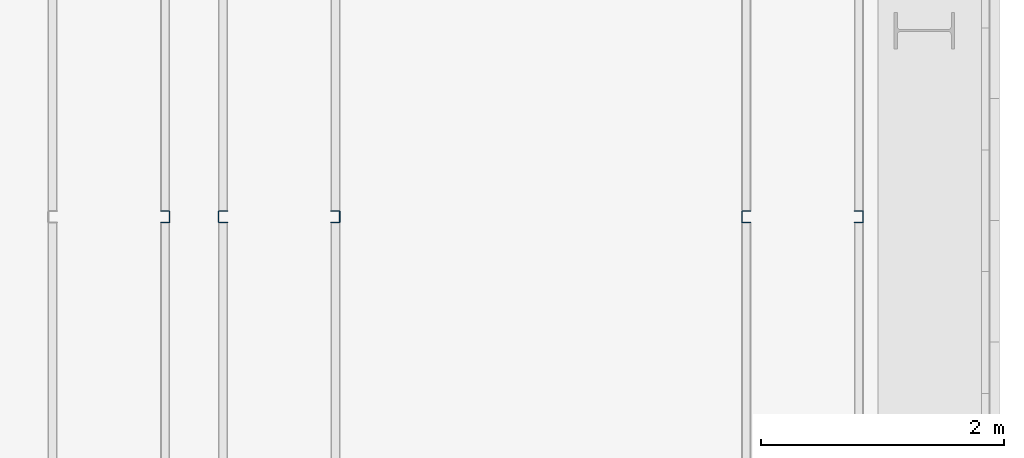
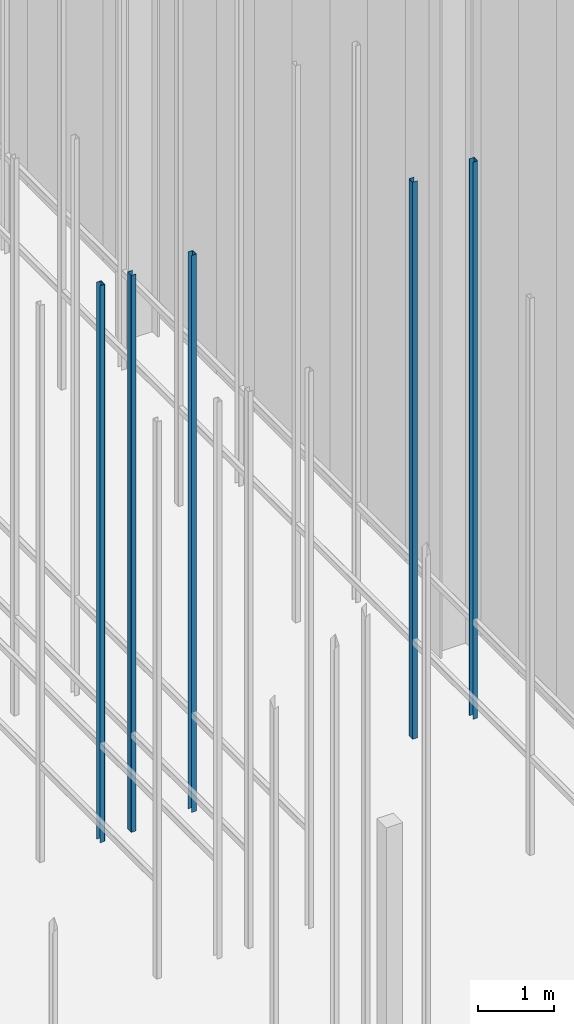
# One storey, part 15 of 302: 5 columns.
"""IFC2X3 building model written with IfcOpenShell, lengths in metres."""

from ifc_helpers import new_model, entity, si_unit, converted_unit, derived_unit, direction, frame, frame_2d, origin, place, context, subcontext, project, spatial, polyline, circle_curve, parameter, trimmed, segment, composite_curve, outline, extrude, source, transform, mapped, material, type_object, type_shapes, element, save


model = new_model("IFC2X3")

# Units and contexts
model_context = context("Model", 3, precision=1e-05, world=origin(), true_north=direction((6.12303176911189e-17, 1.0)))
body_context = subcontext(model_context, "Body", "Model", "MODEL_VIEW")
ifc_project = project(units=[si_unit("LENGTHUNIT", "METRE"), si_unit("AREAUNIT", "SQUARE_METRE"), si_unit("VOLUMEUNIT", "CUBIC_METRE"), converted_unit("PLANEANGLEUNIT", "DEGREE", entity("IfcRatioMeasure", 0.0174532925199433), si_unit("PLANEANGLEUNIT", "RADIAN"), dimensions=[0, 0, 0, 0, 0, 0, 0]), si_unit("MASSUNIT", "GRAM", prefix="KILO"), derived_unit("MASSDENSITYUNIT", [(si_unit("MASSUNIT", "GRAM", prefix="KILO"), 1), (si_unit("LENGTHUNIT", "METRE"), -3)]), derived_unit("MOMENTOFINERTIAUNIT", [(si_unit("LENGTHUNIT", "METRE"), 4)]), si_unit("TIMEUNIT", "SECOND"), si_unit("FREQUENCYUNIT", "HERTZ"), si_unit("THERMODYNAMICTEMPERATUREUNIT", "DEGREE_CELSIUS"), derived_unit("THERMALTRANSMITTANCEUNIT", [(si_unit("MASSUNIT", "GRAM", prefix="KILO"), 1), (si_unit("THERMODYNAMICTEMPERATUREUNIT", "KELVIN"), -1), (si_unit("TIMEUNIT", "SECOND"), -3)]), derived_unit("VOLUMETRICFLOWRATEUNIT", [(si_unit("LENGTHUNIT", "METRE"), 3), (si_unit("TIMEUNIT", "SECOND"), -1)]), si_unit("ELECTRICCURRENTUNIT", "AMPERE"), si_unit("ELECTRICVOLTAGEUNIT", "VOLT"), si_unit("POWERUNIT", "WATT"), si_unit("FORCEUNIT", "NEWTON", prefix="KILO"), si_unit("ILLUMINANCEUNIT", "LUX"), si_unit("LUMINOUSFLUXUNIT", "LUMEN"), si_unit("LUMINOUSINTENSITYUNIT", "CANDELA"), derived_unit("USERDEFINED", [(si_unit("MASSUNIT", "GRAM", prefix="KILO"), -1), (si_unit("LENGTHUNIT", "METRE"), -2), (si_unit("TIMEUNIT", "SECOND"), 3), (si_unit("LUMINOUSFLUXUNIT", "LUMEN"), 1)]), derived_unit("LINEARVELOCITYUNIT", [(si_unit("LENGTHUNIT", "METRE"), 1), (si_unit("TIMEUNIT", "SECOND"), -1)]), si_unit("PRESSUREUNIT", "PASCAL"), derived_unit("USERDEFINED", [(si_unit("LENGTHUNIT", "METRE"), -2), (si_unit("MASSUNIT", "GRAM", prefix="KILO"), 1), (si_unit("TIMEUNIT", "SECOND"), -2)]), derived_unit("LINEARFORCEUNIT", [(si_unit("MASSUNIT", "GRAM", prefix="KILO"), 1), (si_unit("LENGTHUNIT", "METRE"), 1), (si_unit("TIMEUNIT", "SECOND"), -2), (si_unit("LENGTHUNIT", "METRE"), -1)]), derived_unit("PLANARFORCEUNIT", [(si_unit("MASSUNIT", "GRAM", prefix="KILO"), 1), (si_unit("LENGTHUNIT", "METRE"), 1), (si_unit("TIMEUNIT", "SECOND"), -2), (si_unit("LENGTHUNIT", "METRE"), -2)])], contexts=[model_context])

# Site, building, storey
site_placement = place(None, origin())
site = spatial("IfcSite", under=ifc_project, at=site_placement, Name="Default", CompositionType="ELEMENT")
building_placement = place(site_placement, origin())
building = spatial("IfcBuilding", under=site, at=building_placement, CompositionType="ELEMENT")
storey_placement = place(building_placement, frame((0.0, 0.0, -1.3)))
storey = spatial("IfcBuildingStorey", under=building, at=storey_placement, Name="00_EG", CompositionType="ELEMENT", Elevation=-1.3)

# Columns
ifc_material = material(Name="Metall - Baustahl S235")
column_type_1 = type_object("IfcColumnType", Name="Leichter Stahl Schlossschrauben Stütze:C 100", PredefinedType="COLUMN", material=ifc_material)
shared_shape_1 = source(origin(), body_context, "Body", "SweptSolid", [
    extrude(outline(composite_curve([segment(polyline([(-0.0469749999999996, -0.0499999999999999), (0.0214500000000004, -0.0499999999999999)]), True, "CONTINUOUS"), segment(trimmed(circle_curve(frame_2d((0.0214500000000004, -0.0434249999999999), x_axis=(0.0, -1.0)), 0.00657500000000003), [parameter(0.0)], [parameter(89.9999999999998)], True, "PARAMETER"), True, "CONTINUOUS"), segment(polyline([(0.0280250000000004, -0.0434249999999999), (0.0280250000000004, 0.0434250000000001)]), True, "CONTINUOUS"), segment(trimmed(circle_curve(frame_2d((0.0214500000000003, 0.0434250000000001), x_axis=(1.0, 0.0)), 0.0065750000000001), [parameter(0.0)], [parameter(89.9999999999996)], True, "PARAMETER"), True, "CONTINUOUS"), segment(polyline([(0.0214500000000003, 0.0500000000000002), (-0.0469750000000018, 0.0500000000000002)]), True, "CONTINUOUS"), segment(polyline([(-0.0469750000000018, 0.0500000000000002), (-0.0469750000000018, 0.0450000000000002)]), True, "CONTINUOUS"), segment(polyline([(-0.0469750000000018, 0.0450000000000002), (0.0214500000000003, 0.0450000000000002)]), True, "CONTINUOUS"), segment(trimmed(circle_curve(frame_2d((0.0214500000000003, 0.0434249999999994), x_axis=(0.0, 1.0)), 0.00157500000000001), [parameter(269.999999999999)], [parameter(0.0)], True, "PARAMETER"), False, "CONTINUOUS"), segment(polyline([(0.0230250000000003, 0.0434249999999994), (0.0230250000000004, -0.0434249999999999)]), True, "CONTINUOUS"), segment(trimmed(circle_curve(frame_2d((0.0214500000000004, -0.0434249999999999), x_axis=(1.0, 0.0)), 0.00157500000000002), [parameter(270.0)], [parameter(0.0)], True, "PARAMETER"), False, "CONTINUOUS"), segment(polyline([(0.0214500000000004, -0.0449999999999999), (-0.0469749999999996, -0.0449999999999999)]), True, "CONTINUOUS"), segment(polyline([(-0.0469749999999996, -0.0449999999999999), (-0.0469749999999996, -0.0499999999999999)]), True, "CONTINUOUS")], self_intersect=False)), frame((0.0499999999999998, 0.0280250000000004, -0.0300000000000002), z_axis=(0.0, 0.0, 1.0), x_axis=(0.0, -1.0, 0.0)), (0.0, 0.0, 1.0), 9.0),
])
type_shapes(column_type_1, [shared_shape_1])
for number, where, z_axis, x_axis in (
    (1, (-183.690111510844, 30.248088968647, 1.3), (0.0, 0.0, 1.0), (0.0, -1.0, 0.0)),
    (2, (-179.390111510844, 30.248088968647, 1.3), (0.0, 0.0, 1.0), (0.0, -1.0, 0.0)),
):
    element("IfcColumn", number, at=place(storey_placement, frame(where, z_axis=z_axis, x_axis=x_axis)), inside=storey, type_object=column_type_1, material=ifc_material, Name="Leichter Stahl Schlossschrauben Stütze:C 100", ObjectType="Leichter Stahl Schlossschrauben Stütze:C 100", context=body_context, shape_type="MappedRepresentation", body=[
        mapped(shared_shape_1, transform((0.0, 0.0, 0.0), scale=1.0)),
    ])
column_type_2 = type_object("IfcColumnType", Name="Leichter Stahl Schlossschrauben Stütze:C 100", PredefinedType="COLUMN", material=ifc_material)
shared_shape_2 = source(origin(), body_context, "Body", "SweptSolid", [
    extrude(outline(composite_curve([segment(polyline([(-0.0214500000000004, -0.0499999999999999), (0.0469749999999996, -0.0499999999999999)]), True, "CONTINUOUS"), segment(polyline([(0.0469749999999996, -0.0499999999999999), (0.0469749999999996, -0.0449999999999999)]), True, "CONTINUOUS"), segment(polyline([(0.0469749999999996, -0.0449999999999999), (-0.0214500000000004, -0.045)]), True, "CONTINUOUS"), segment(trimmed(circle_curve(frame_2d((-0.0214500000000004, -0.043425), x_axis=(0.0, -1.0)), 0.00157500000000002), [parameter(270.0)], [parameter(0.0)], True, "PARAMETER"), False, "CONTINUOUS"), segment(polyline([(-0.0230250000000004, -0.0434249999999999), (-0.0230250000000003, 0.0434249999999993)]), True, "CONTINUOUS"), segment(trimmed(circle_curve(frame_2d((-0.0214500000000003, 0.0434249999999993), x_axis=(-1.0, 0.0)), 0.00157500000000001), [parameter(269.999999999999)], [parameter(0.0)], True, "PARAMETER"), False, "CONTINUOUS"), segment(polyline([(-0.0214500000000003, 0.0450000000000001), (0.0469750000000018, 0.0450000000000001)]), True, "CONTINUOUS"), segment(polyline([(0.0469750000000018, 0.0450000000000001), (0.0469750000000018, 0.0500000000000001)]), True, "CONTINUOUS"), segment(polyline([(0.0469750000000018, 0.0500000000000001), (-0.0214500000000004, 0.0500000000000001)]), True, "CONTINUOUS"), segment(trimmed(circle_curve(frame_2d((-0.0214500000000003, 0.043425), x_axis=(0.0, 1.0)), 0.0065750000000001), [parameter(0.0)], [parameter(89.9999999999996)], True, "PARAMETER"), True, "CONTINUOUS"), segment(polyline([(-0.0280250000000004, 0.043425), (-0.0280250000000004, -0.043425)]), True, "CONTINUOUS"), segment(trimmed(circle_curve(frame_2d((-0.0214500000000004, -0.0434249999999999), x_axis=(-1.0, 0.0)), 0.00657500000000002), [parameter(0.0)], [parameter(89.9999999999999)], True, "PARAMETER"), True, "CONTINUOUS")], self_intersect=False)), frame((0.0499999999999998, -0.0280250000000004, -0.0300000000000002), z_axis=(0.0, 0.0, 1.0), x_axis=(0.0, -1.0, 0.0)), (0.0, 0.0, 1.0), 9.0),
])
type_shapes(column_type_2, [shared_shape_2])
for number, where, z_axis, x_axis in (
    (3, (-184.090111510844, 30.248088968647, 1.3), (0.0, 0.0, 1.0), (0.0, -1.0, 0.0)),
    (4, (-182.690111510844, 30.248088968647, 1.3), (0.0, 0.0, 1.0), (0.0, -1.0, 0.0)),
    (5, (-178.390111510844, 30.248088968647, 1.3), (0.0, 0.0, 1.0), (0.0, -1.0, 0.0)),
):
    element("IfcColumn", number, at=place(storey_placement, frame(where, z_axis=z_axis, x_axis=x_axis)), inside=storey, type_object=column_type_2, material=ifc_material, Name="Leichter Stahl Schlossschrauben Stütze:C 100", ObjectType="Leichter Stahl Schlossschrauben Stütze:C 100", context=body_context, shape_type="MappedRepresentation", body=[
        mapped(shared_shape_2, transform((0.0, 0.0, 0.0), scale=1.0)),
    ])

save(model, "model.ifc")
